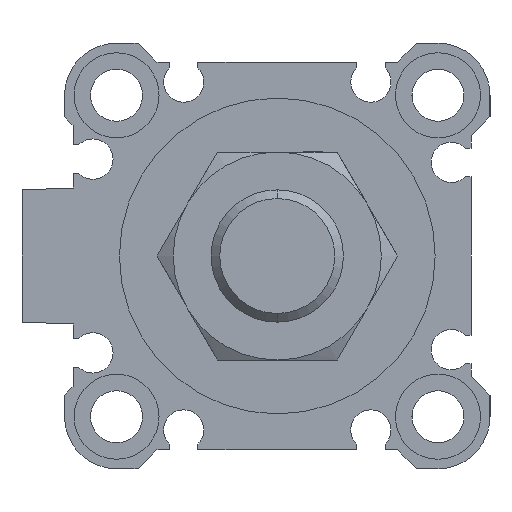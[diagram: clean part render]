
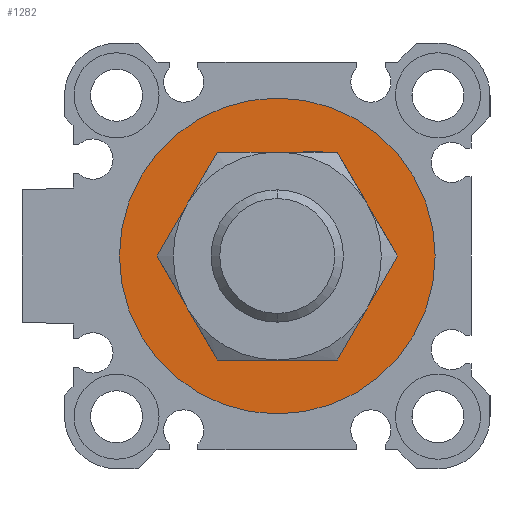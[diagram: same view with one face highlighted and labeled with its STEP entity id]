
A CAD part, left-side view. The second image highlights one B-rep face of the part: STEP entity #1282.
In plain terms, the highlighted planar face has unit normal (-1, 0, 0).
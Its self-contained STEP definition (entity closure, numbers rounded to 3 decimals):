
#152 = DIRECTION ( 'NONE',  ( 1., 0., 0. ) ) ;
#239 = CIRCLE ( 'NONE', #688, 10.5 ) ;
#413 = VERTEX_POINT ( 'NONE', #6026 ) ;
#688 = AXIS2_PLACEMENT_3D ( 'NONE', #5507, #152, #6711 ) ;
#1103 = DIRECTION ( 'NONE',  ( 0., 0., -1. ) ) ;
#1282 = ADVANCED_FACE ( 'NONE', ( #2242, #3233 ), #6983, .F. ) ;
#1453 = CARTESIAN_POINT ( 'NONE',  ( 2.1, 0., -16.7 ) ) ;
#1549 = EDGE_CURVE ( 'NONE', #2478, #5044, #239, .T. ) ;
#1684 = DIRECTION ( 'NONE',  ( 0., 0., -1. ) ) ;
#2096 = CARTESIAN_POINT ( 'NONE',  ( 2.1, 0., 10.5 ) ) ;
#2242 = FACE_OUTER_BOUND ( 'NONE', #6336, .T. ) ;
#2280 = ORIENTED_EDGE ( 'NONE', *, *, #3812, .T. ) ;
#2478 = VERTEX_POINT ( 'NONE', #2096 ) ;
#2492 = VERTEX_POINT ( 'NONE', #1453 ) ;
#2566 = EDGE_CURVE ( 'NONE', #2492, #413, #3144, .T. ) ;
#2632 = CARTESIAN_POINT ( 'NONE',  ( 2.1, 0., 0. ) ) ;
#2753 = DIRECTION ( 'NONE',  ( 1., 0., 0. ) ) ;
#3102 = DIRECTION ( 'NONE',  ( 1., 0., 0. ) ) ;
#3144 = CIRCLE ( 'NONE', #4171, 16.7 ) ;
#3233 = FACE_BOUND ( 'NONE', #4882, .T. ) ;
#3300 = AXIS2_PLACEMENT_3D ( 'NONE', #2632, #3102, #6955 ) ;
#3330 = CARTESIAN_POINT ( 'NONE',  ( 2.1, 0., -10.5 ) ) ;
#3414 = CIRCLE ( 'NONE', #6016, 16.7 ) ;
#3430 = EDGE_CURVE ( 'NONE', #413, #2492, #3414, .T. ) ;
#3812 = EDGE_CURVE ( 'NONE', #5044, #2478, #5675, .T. ) ;
#3878 = DIRECTION ( 'NONE',  ( 1., 0., 0. ) ) ;
#4078 = ORIENTED_EDGE ( 'NONE', *, *, #2566, .F. ) ;
#4171 = AXIS2_PLACEMENT_3D ( 'NONE', #4943, #5400, #1103 ) ;
#4349 = CARTESIAN_POINT ( 'NONE',  ( 2.1, 0., 0. ) ) ;
#4882 = EDGE_LOOP ( 'NONE', ( #5348, #2280 ) ) ;
#4936 = CARTESIAN_POINT ( 'NONE',  ( 2.1, 0., 0. ) ) ;
#4943 = CARTESIAN_POINT ( 'NONE',  ( 2.1, 0., 0. ) ) ;
#5044 = VERTEX_POINT ( 'NONE', #3330 ) ;
#5348 = ORIENTED_EDGE ( 'NONE', *, *, #1549, .T. ) ;
#5400 = DIRECTION ( 'NONE',  ( 1., 0., 0. ) ) ;
#5507 = CARTESIAN_POINT ( 'NONE',  ( 2.1, 0., 0. ) ) ;
#5673 = ORIENTED_EDGE ( 'NONE', *, *, #3430, .F. ) ;
#5675 = CIRCLE ( 'NONE', #3300, 10.5 ) ;
#6016 = AXIS2_PLACEMENT_3D ( 'NONE', #4349, #2753, #1684 ) ;
#6026 = CARTESIAN_POINT ( 'NONE',  ( 2.1, 0., 16.7 ) ) ;
#6040 = DIRECTION ( 'NONE',  ( 0., 1., 0. ) ) ;
#6307 = AXIS2_PLACEMENT_3D ( 'NONE', #4936, #3878, #6040 ) ;
#6336 = EDGE_LOOP ( 'NONE', ( #5673, #4078 ) ) ;
#6711 = DIRECTION ( 'NONE',  ( 0., 0., -1. ) ) ;
#6955 = DIRECTION ( 'NONE',  ( 0., 0., -1. ) ) ;
#6983 = PLANE ( 'NONE',  #6307 ) ;
